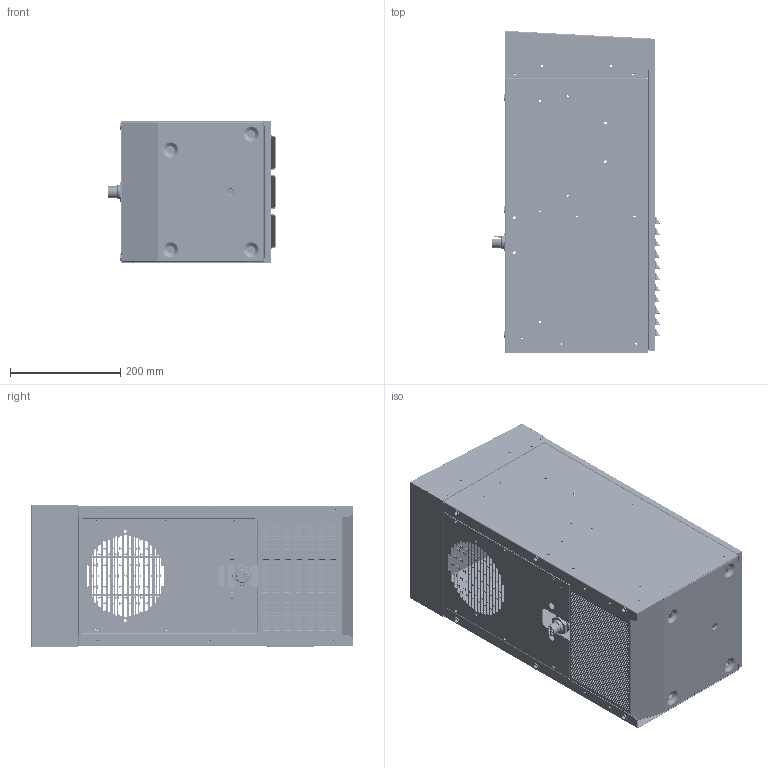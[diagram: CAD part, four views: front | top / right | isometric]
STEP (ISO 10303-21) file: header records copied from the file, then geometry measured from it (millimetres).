
FILE_DESCRIPTION (( 'STEP AP203' ), '1' );
FILE_NAME ('DTS 3081 460V.STEP', '2017-11-21T21:45:36', ( '' ), ( '' ), 'SwSTEP 2.0', 'SolidWorks 2015', '' );
FILE_SCHEMA (( 'CONFIG_CONTROL_DESIGN' ));
Products named in the file (13): 885000012; 885000013; 30203-016_802004005; 015080031; 30203-035_813000000; 30203-024_802005017; 825500030_825500030; 30203-041_802000230; 30203-025; DTS 3081 460V; US-020140030; 30203-026; 30203-043_802000234
Assembly tree (17 placements, depth 2):
  DTS 3081 460V
    30203-016_802004005
    30203-035_813000000
    825500030_825500030
    30203-025
    US-020140030  x6
    30203-026
    30203-043_802000234
    885000012
    885000013
    015080031
    30203-024_802005017
    30203-041_802000230
Bounding box: 303.35 x 583.24 x 257.28 mm (x, y, z)
Volume: 1345956 mm3; surface area: 2080790.9 mm2
Topology: 30 solids, 31 shells, 9308 faces, 25432 edges, 16654 vertices
Faces by surface type: plane 4272, bspline 2842, cylinder 1849, torus 186, cone 151, sphere 8
Entity records: 460112 total; most frequent: CARTESIAN_POINT 244575, ORIENTED_EDGE 49518, DIRECTION 34825, EDGE_CURVE 24759, VERTEX_POINT 16224, VECTOR 14451, LINE 14451, EDGE_LOOP 10961
